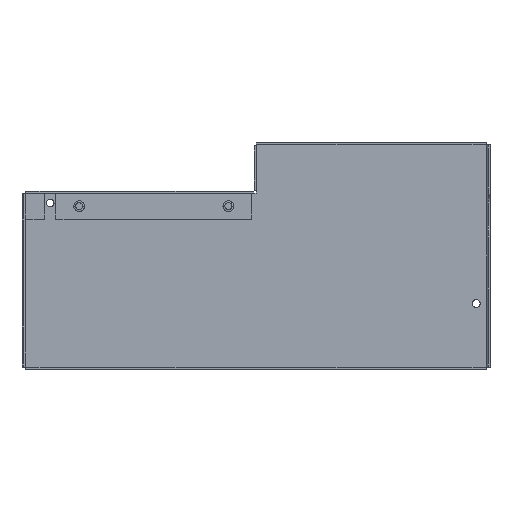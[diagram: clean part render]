
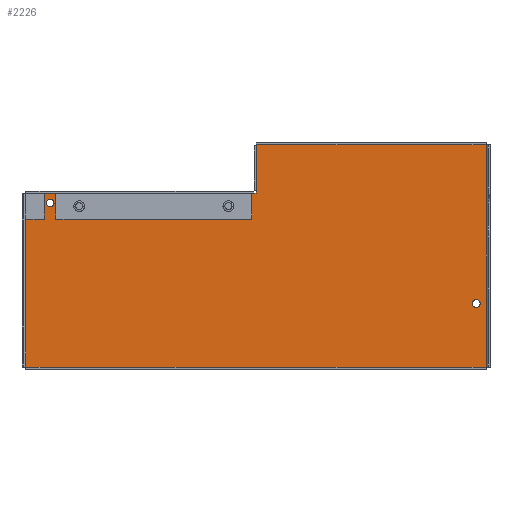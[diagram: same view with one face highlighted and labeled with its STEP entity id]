
A CAD part, front view. The second image highlights one B-rep face of the part: STEP entity #2226.
In plain terms, the highlighted planar face has unit normal (0, -1, 0).
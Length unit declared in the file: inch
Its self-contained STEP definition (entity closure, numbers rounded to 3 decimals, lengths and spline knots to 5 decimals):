
#329=CARTESIAN_POINT('',(3.559,1.,-0.769));
#330=DIRECTION('',(0.,1.,0.));
#331=DIRECTION('',(1.,0.,0.));
#332=AXIS2_PLACEMENT_3D('',#329,#330,#331);
#334=CARTESIAN_POINT('',(3.559,1.,-0.769));
#335=DIRECTION('',(0.,1.,0.));
#336=DIRECTION('',(-1.,0.,0.));
#337=AXIS2_PLACEMENT_3D('',#334,#335,#336);
#339=CARTESIAN_POINT('',(-3.326,1.,0.856));
#340=DIRECTION('',(0.,1.,0.));
#341=DIRECTION('',(1.,0.,0.));
#342=AXIS2_PLACEMENT_3D('',#339,#340,#341);
#344=CARTESIAN_POINT('',(-3.326,1.,0.856));
#345=DIRECTION('',(0.,1.,0.));
#346=DIRECTION('',(-1.,0.,0.));
#347=AXIS2_PLACEMENT_3D('',#344,#345,#346);
#349=DIRECTION('',(1.,0.,0.));
#350=VECTOR('',#349,0.3);
#351=CARTESIAN_POINT('',(-3.72,1.,0.595));
#352=LINE('',#351,#350);
#353=DIRECTION('',(0.,0.,1.));
#354=VECTOR('',#353,0.42);
#355=CARTESIAN_POINT('',(-3.42,1.,0.595));
#356=LINE('',#355,#354);
#357=DIRECTION('',(1.,0.,0.));
#358=VECTOR('',#357,0.188);
#359=CARTESIAN_POINT('',(-3.42,1.,1.015));
#360=LINE('',#359,#358);
#361=DIRECTION('',(0.,0.,-1.));
#362=VECTOR('',#361,0.42);
#363=CARTESIAN_POINT('',(-3.232,1.,1.015));
#364=LINE('',#363,#362);
#365=DIRECTION('',(1.,0.,0.));
#366=VECTOR('',#365,3.16);
#367=CARTESIAN_POINT('',(-3.232,1.,0.595));
#368=LINE('',#367,#366);
#369=DIRECTION('',(0.,0.,1.));
#370=VECTOR('',#369,0.42);
#371=CARTESIAN_POINT('',(-0.072,1.,0.595));
#372=LINE('',#371,#370);
#373=DIRECTION('',(1.,0.,0.));
#374=VECTOR('',#373,0.032);
#375=CARTESIAN_POINT('',(-0.072,1.,1.015));
#376=LINE('',#375,#374);
#377=DIRECTION('',(1.,0.,0.));
#378=VECTOR('',#377,0.04);
#379=CARTESIAN_POINT('',(-0.04,1.,1.015));
#380=LINE('',#379,#378);
#381=DIRECTION('',(0.,0.,-1.));
#382=VECTOR('',#381,0.046);
#383=CARTESIAN_POINT('',(0.,1.,1.061));
#384=LINE('',#383,#382);
#385=DIRECTION('',(0.,0.,1.));
#386=VECTOR('',#385,0.719);
#387=CARTESIAN_POINT('',(0.,1.,1.061));
#388=LINE('',#387,#386);
#389=DIRECTION('',(0.,0.,-1.));
#390=VECTOR('',#389,0.015);
#391=CARTESIAN_POINT('',(0.,1.,1.795));
#392=LINE('',#391,#390);
#393=DIRECTION('',(-1.,0.,0.));
#394=VECTOR('',#393,3.72);
#395=CARTESIAN_POINT('',(3.72,1.,1.795));
#396=LINE('',#395,#394);
#397=DIRECTION('',(1.,0.,0.));
#398=VECTOR('',#397,7.44);
#399=CARTESIAN_POINT('',(-3.72,1.,-1.795));
#400=LINE('',#399,#398);
#401=DIRECTION('',(0.,0.,1.));
#402=VECTOR('',#401,2.39);
#403=CARTESIAN_POINT('',(-3.72,1.,-1.795));
#404=LINE('',#403,#402);
#1411=DIRECTION('',(0.,0.,1.));
#1412=VECTOR('',#1411,3.59);
#1413=CARTESIAN_POINT('',(3.72,1.,-1.795));
#1414=LINE('',#1413,#1412);
#1620=CARTESIAN_POINT('',(0.,1.,1.015));
#1622=VERTEX_POINT('',#1620);
#1631=CARTESIAN_POINT('',(3.72,1.,1.795));
#1633=VERTEX_POINT('',#1631);
#1635=CARTESIAN_POINT('',(0.,1.,1.795));
#1636=VERTEX_POINT('',#1635);
#1645=CARTESIAN_POINT('',(-0.04,1.,1.015));
#1647=VERTEX_POINT('',#1645);
#1659=CARTESIAN_POINT('',(-3.72,1.,-1.795));
#1661=VERTEX_POINT('',#1659);
#1663=CARTESIAN_POINT('',(3.72,1.,-1.795));
#1665=VERTEX_POINT('',#1663);
#1699=CARTESIAN_POINT('',(3.6215,1.,-0.769));
#1700=CARTESIAN_POINT('',(3.4965,1.,-0.769));
#1701=VERTEX_POINT('',#1699);
#1702=VERTEX_POINT('',#1700);
#1703=CARTESIAN_POINT('',(-3.2635,1.,0.856));
#1704=CARTESIAN_POINT('',(-3.3885,1.,0.856));
#1705=VERTEX_POINT('',#1703);
#1706=VERTEX_POINT('',#1704);
#1871=CARTESIAN_POINT('',(0.,1.,1.061));
#1872=CARTESIAN_POINT('',(0.,1.,1.78));
#1873=VERTEX_POINT('',#1871);
#1874=VERTEX_POINT('',#1872);
#1987=CARTESIAN_POINT('',(-3.72,1.,0.595));
#1989=VERTEX_POINT('',#1987);
#1991=CARTESIAN_POINT('',(-3.42,1.,0.595));
#1992=VERTEX_POINT('',#1991);
#1993=CARTESIAN_POINT('',(-3.42,1.,1.015));
#1994=VERTEX_POINT('',#1993);
#1995=CARTESIAN_POINT('',(-3.232,1.,0.595));
#1996=CARTESIAN_POINT('',(-0.072,1.,0.595));
#1997=VERTEX_POINT('',#1995);
#1998=VERTEX_POINT('',#1996);
#1999=CARTESIAN_POINT('',(-0.072,1.,1.015));
#2000=VERTEX_POINT('',#1999);
#2001=CARTESIAN_POINT('',(-3.232,1.,1.015));
#2002=VERTEX_POINT('',#2001);
#2179=CARTESIAN_POINT('',(-3.72,1.,-1.795));
#2180=DIRECTION('',(0.,-1.,0.));
#2181=DIRECTION('',(1.,0.,0.));
#2182=AXIS2_PLACEMENT_3D('',#2179,#2180,#2181);
#2183=PLANE('',#2182);
#2185=ORIENTED_EDGE('',*,*,#2184,.T.);
#2187=ORIENTED_EDGE('',*,*,#2186,.T.);
#2189=ORIENTED_EDGE('',*,*,#2188,.T.);
#2191=ORIENTED_EDGE('',*,*,#2190,.T.);
#2193=ORIENTED_EDGE('',*,*,#2192,.T.);
#2195=ORIENTED_EDGE('',*,*,#2194,.T.);
#2197=ORIENTED_EDGE('',*,*,#2196,.T.);
#2199=ORIENTED_EDGE('',*,*,#2198,.T.);
#2201=ORIENTED_EDGE('',*,*,#2200,.F.);
#2203=ORIENTED_EDGE('',*,*,#2202,.T.);
#2205=ORIENTED_EDGE('',*,*,#2204,.F.);
#2207=ORIENTED_EDGE('',*,*,#2206,.F.);
#2209=ORIENTED_EDGE('',*,*,#2208,.F.);
#2211=ORIENTED_EDGE('',*,*,#2210,.F.);
#2213=ORIENTED_EDGE('',*,*,#2212,.T.);
#2214=EDGE_LOOP('',(#2185,#2187,#2189,#2191,#2193,#2195,#2197,#2199,#2201,#2203,
#2205,#2207,#2209,#2211,#2213));
#2215=FACE_OUTER_BOUND('',#2214,.F.);
#2217=ORIENTED_EDGE('',*,*,#2216,.F.);
#2219=ORIENTED_EDGE('',*,*,#2218,.F.);
#2220=EDGE_LOOP('',(#2217,#2219));
#2221=FACE_BOUND('',#2220,.F.);
#2222=ORIENTED_EDGE('',*,*,#2159,.F.);
#2223=ORIENTED_EDGE('',*,*,#2173,.F.);
#2224=EDGE_LOOP('',(#2222,#2223));
#2225=FACE_BOUND('',#2224,.F.);
#2226=ADVANCED_FACE('',(#2215,#2221,#2225),#2183,.T.);
#333=CIRCLE('',#332,0.0625);
#338=CIRCLE('',#337,0.0625);
#343=CIRCLE('',#342,0.0625);
#348=CIRCLE('',#347,0.0625);
#2159=EDGE_CURVE('',#1701,#1702,#333,.T.);
#2173=EDGE_CURVE('',#1702,#1701,#338,.T.);
#2184=EDGE_CURVE('',#1989,#1992,#352,.T.);
#2186=EDGE_CURVE('',#1992,#1994,#356,.T.);
#2188=EDGE_CURVE('',#1994,#2002,#360,.T.);
#2190=EDGE_CURVE('',#2002,#1997,#364,.T.);
#2192=EDGE_CURVE('',#1997,#1998,#368,.T.);
#2194=EDGE_CURVE('',#1998,#2000,#372,.T.);
#2196=EDGE_CURVE('',#2000,#1647,#376,.T.);
#2198=EDGE_CURVE('',#1647,#1622,#380,.T.);
#2200=EDGE_CURVE('',#1873,#1622,#384,.T.);
#2202=EDGE_CURVE('',#1873,#1874,#388,.T.);
#2204=EDGE_CURVE('',#1636,#1874,#392,.T.);
#2206=EDGE_CURVE('',#1633,#1636,#396,.T.);
#2208=EDGE_CURVE('',#1665,#1633,#1414,.T.);
#2210=EDGE_CURVE('',#1661,#1665,#400,.T.);
#2212=EDGE_CURVE('',#1661,#1989,#404,.T.);
#2216=EDGE_CURVE('',#1705,#1706,#343,.T.);
#2218=EDGE_CURVE('',#1706,#1705,#348,.T.);
